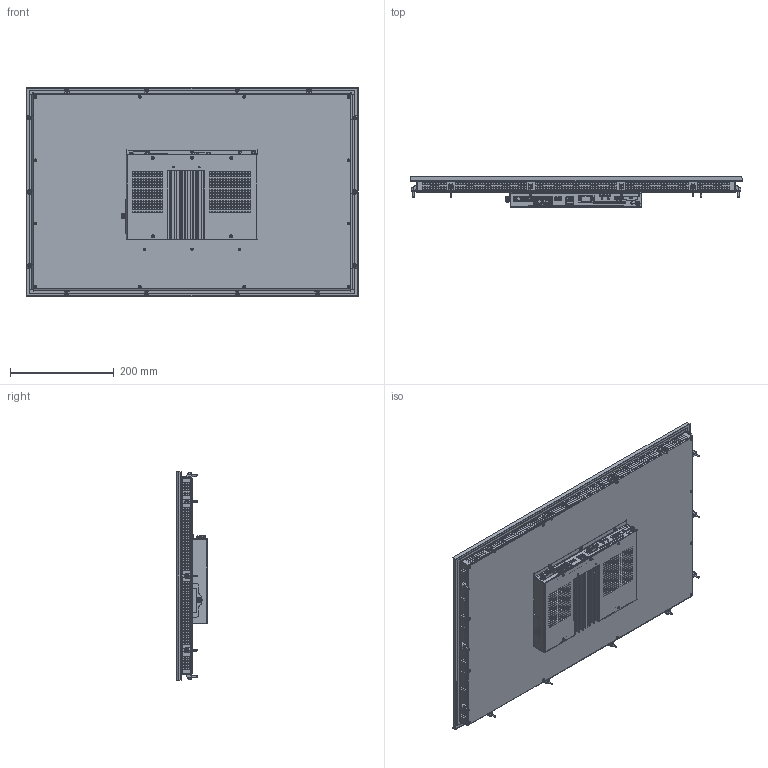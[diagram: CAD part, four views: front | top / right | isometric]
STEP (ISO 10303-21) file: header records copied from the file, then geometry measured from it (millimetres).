
FILE_DESCRIPTION((''),'2;1');
FILE_NAME('C6E22-Panel_240W_CAP_SL','2017-03-07T',('manpal'),(''),'PRO/ENGINEER BY PARAMETRIC TECHNOLOGY CORPORATION, 2013410','PRO/ENGINEER BY PARAMETRIC TECHNOLOGY CORPORATION, 2013410','');
FILE_SCHEMA(('AUTOMOTIVE_DESIGN { 1 0 10303 214 1 1 1 1 }'));
Products named in the file (2): C6E22-Panel_240W_CAP_SL_
Assembly tree (1 placements, depth 2):
  C6E22-Panel_240W_CAP_SL_
    C6E22-Panel_240W_CAP_SL_
Bounding box: 639.5 x 58.1 x 402 mm (x, y, z)
Surface area: 1312354.1 mm2 (no closed solid volume)
Topology: 0 solids, 395 shells, 5903 faces, 24487 edges, 18770 vertices
Faces by surface type: plane 4869, cylinder 667, cone 190, bspline 117, torus 31, sphere 27, extrusion 2
Entity records: 276589 total; most frequent: CARTESIAN_POINT 60763, DIRECTION 37892, ORIENTED_EDGE 35473, EDGE_CURVE 24445, VECTOR 20256, LINE 20254, VERTEX_POINT 18770, AXIS2_PLACEMENT_3D 8818
